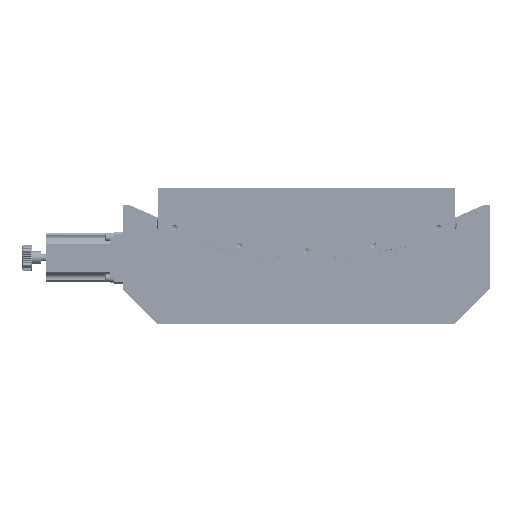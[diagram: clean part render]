
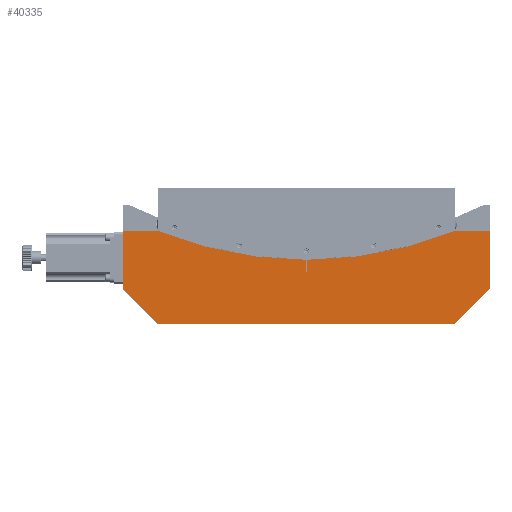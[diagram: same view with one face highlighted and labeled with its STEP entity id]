
A CAD part, top view. The second image highlights one B-rep face of the part: STEP entity #40335.
In plain terms, the highlighted planar face has unit normal (0, 0, 1).
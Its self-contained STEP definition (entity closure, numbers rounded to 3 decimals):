
#261 = ORIENTED_EDGE ( 'NONE', *, *, #41814, .T. ) ;
#854 = EDGE_CURVE ( 'NONE', #41335, #16954, #17699, .T. ) ;
#3986 = EDGE_CURVE ( 'NONE', #50698, #30532, #8318, .T. ) ;
#4849 = ORIENTED_EDGE ( 'NONE', *, *, #854, .T. ) ;
#4888 = VECTOR ( 'NONE', #61313, 1000. ) ;
#6475 = DIRECTION ( 'NONE',  ( 1., 0., 0. ) ) ;
#7382 = DIRECTION ( 'NONE',  ( 0., 0., -1. ) ) ;
#7596 = ORIENTED_EDGE ( 'NONE', *, *, #51923, .T. ) ;
#8318 = CIRCLE ( 'NONE', #45536, 452. ) ;
#8530 = VECTOR ( 'NONE', #52926, 1000. ) ;
#8994 = DIRECTION ( 'NONE',  ( 0., 1., 0. ) ) ;
#9153 = CARTESIAN_POINT ( 'NONE',  ( 0., 106.2, 250. ) ) ;
#9436 = AXIS2_PLACEMENT_3D ( 'NONE', #63718, #11126, #22816 ) ;
#11126 = DIRECTION ( 'NONE',  ( 0., 0., -1. ) ) ;
#12085 = VECTOR ( 'NONE', #45861, 1000. ) ;
#12267 = CARTESIAN_POINT ( 'NONE',  ( 420., 40., 250. ) ) ;
#12289 = LINE ( 'NONE', #31672, #26926 ) ;
#12814 = DIRECTION ( 'NONE',  ( -1., 0., 0. ) ) ;
#12989 = VERTEX_POINT ( 'NONE', #32265 ) ;
#13018 = DIRECTION ( 'NONE',  ( 1., 0., 0. ) ) ;
#13958 = CARTESIAN_POINT ( 'NONE',  ( 0., 0., 250. ) ) ;
#15334 = ORIENTED_EDGE ( 'NONE', *, *, #76905, .T. ) ;
#15468 = LINE ( 'NONE', #16753, #23981 ) ;
#16223 = LINE ( 'NONE', #23560, #57766 ) ;
#16753 = CARTESIAN_POINT ( 'NONE',  ( 210.5, 87.215, 250. ) ) ;
#16954 = VERTEX_POINT ( 'NONE', #42634 ) ;
#17699 = CIRCLE ( 'NONE', #9436, 452. ) ;
#17786 = LINE ( 'NONE', #39284, #38085 ) ;
#19099 = VECTOR ( 'NONE', #12814, 1000. ) ;
#22816 = DIRECTION ( 'NONE',  ( 1., 0., 0. ) ) ;
#23560 = CARTESIAN_POINT ( 'NONE',  ( 420., 0., 250. ) ) ;
#23981 = VECTOR ( 'NONE', #8994, 1000. ) ;
#24067 = ORIENTED_EDGE ( 'NONE', *, *, #3986, .T. ) ;
#25980 = DIRECTION ( 'NONE',  ( 1., 0., 0. ) ) ;
#26926 = VECTOR ( 'NONE', #84363, 1000. ) ;
#27582 = CARTESIAN_POINT ( 'NONE',  ( 380., 106.2, 250. ) ) ;
#29441 = ORIENTED_EDGE ( 'NONE', *, *, #36281, .F. ) ;
#30532 = VERTEX_POINT ( 'NONE', #71194 ) ;
#30695 = VERTEX_POINT ( 'NONE', #61171 ) ;
#31672 = CARTESIAN_POINT ( 'NONE',  ( 209.5, 525.013, 250. ) ) ;
#31712 = VERTEX_POINT ( 'NONE', #47795 ) ;
#31940 = ORIENTED_EDGE ( 'NONE', *, *, #33057, .F. ) ;
#32265 = CARTESIAN_POINT ( 'NONE',  ( 0., 106.2, 250. ) ) ;
#33057 = EDGE_CURVE ( 'NONE', #41335, #30695, #12289, .T. ) ;
#36281 = EDGE_CURVE ( 'NONE', #30695, #64128, #17786, .T. ) ;
#37072 = VERTEX_POINT ( 'NONE', #73793 ) ;
#37683 = EDGE_CURVE ( 'NONE', #12989, #67805, #78678, .T. ) ;
#37686 = VERTEX_POINT ( 'NONE', #12267 ) ;
#37702 = CARTESIAN_POINT ( 'NONE',  ( 210.5, 58.81, 250. ) ) ;
#38085 = VECTOR ( 'NONE', #13018, 1000. ) ;
#38237 = CARTESIAN_POINT ( 'NONE',  ( 420., 106.2, 250. ) ) ;
#38627 = EDGE_CURVE ( 'NONE', #67013, #50698, #57617, .T. ) ;
#38875 = CARTESIAN_POINT ( 'NONE',  ( 0., 40., 250. ) ) ;
#39284 = CARTESIAN_POINT ( 'NONE',  ( 209.5, 58.81, 250. ) ) ;
#40335 = ADVANCED_FACE ( 'NONE', ( #45690 ), #71626, .T. ) ;
#41335 = VERTEX_POINT ( 'NONE', #57118 ) ;
#41814 = EDGE_CURVE ( 'NONE', #37686, #67013, #16223, .T. ) ;
#42016 = LINE ( 'NONE', #68368, #64248 ) ;
#42634 = CARTESIAN_POINT ( 'NONE',  ( 40., 106.2, 250. ) ) ;
#43318 = CARTESIAN_POINT ( 'NONE',  ( 557.506, 177.506, 250. ) ) ;
#45536 = AXIS2_PLACEMENT_3D ( 'NONE', #85101, #7382, #25980 ) ;
#45690 = FACE_OUTER_BOUND ( 'NONE', #73282, .T. ) ;
#45861 = DIRECTION ( 'NONE',  ( 0., -1., 0. ) ) ;
#46209 = ORIENTED_EDGE ( 'NONE', *, *, #38627, .T. ) ;
#46471 = CARTESIAN_POINT ( 'NONE',  ( 0., 0., 250. ) ) ;
#47795 = CARTESIAN_POINT ( 'NONE',  ( 380., 0., 250. ) ) ;
#50698 = VERTEX_POINT ( 'NONE', #27582 ) ;
#50699 = CARTESIAN_POINT ( 'NONE',  ( 420., 106.2, 250. ) ) ;
#51923 = EDGE_CURVE ( 'NONE', #16954, #12989, #68247, .T. ) ;
#52258 = AXIS2_PLACEMENT_3D ( 'NONE', #70768, #65542, #6475 ) ;
#52926 = DIRECTION ( 'NONE',  ( 1., 0., 0. ) ) ;
#56633 = DIRECTION ( 'NONE',  ( 0.707, -0.707, 0. ) ) ;
#56998 = ORIENTED_EDGE ( 'NONE', *, *, #59770, .T. ) ;
#57118 = CARTESIAN_POINT ( 'NONE',  ( 209.5, 73.013, 250. ) ) ;
#57617 = LINE ( 'NONE', #38237, #19099 ) ;
#57766 = VECTOR ( 'NONE', #75739, 1000. ) ;
#59770 = EDGE_CURVE ( 'NONE', #67805, #37072, #42016, .T. ) ;
#60519 = VECTOR ( 'NONE', #75691, 1000. ) ;
#61171 = CARTESIAN_POINT ( 'NONE',  ( 209.5, 58.81, 250. ) ) ;
#61313 = DIRECTION ( 'NONE',  ( -1., 0., 0. ) ) ;
#63718 = CARTESIAN_POINT ( 'NONE',  ( 210., 525.013, 250. ) ) ;
#64128 = VERTEX_POINT ( 'NONE', #37702 ) ;
#64248 = VECTOR ( 'NONE', #56633, 1000. ) ;
#65485 = LINE ( 'NONE', #46471, #8530 ) ;
#65542 = DIRECTION ( 'NONE',  ( 0., 0., 1. ) ) ;
#67013 = VERTEX_POINT ( 'NONE', #50699 ) ;
#67805 = VERTEX_POINT ( 'NONE', #38875 ) ;
#68247 = LINE ( 'NONE', #9153, #4888 ) ;
#68368 = CARTESIAN_POINT ( 'NONE',  ( -137.506, 177.506, 250. ) ) ;
#70768 = CARTESIAN_POINT ( 'NONE',  ( 210., 525.013, 250. ) ) ;
#70877 = EDGE_CURVE ( 'NONE', #37072, #31712, #65485, .T. ) ;
#71194 = CARTESIAN_POINT ( 'NONE',  ( 210.5, 73.013, 250. ) ) ;
#71626 = PLANE ( 'NONE',  #52258 ) ;
#73282 = EDGE_LOOP ( 'NONE', ( #81569, #29441, #31940, #4849, #7596, #76376, #56998, #73516, #15334, #261, #46209, #24067 ) ) ;
#73516 = ORIENTED_EDGE ( 'NONE', *, *, #70877, .T. ) ;
#73793 = CARTESIAN_POINT ( 'NONE',  ( 40., 0., 250. ) ) ;
#75691 = DIRECTION ( 'NONE',  ( 0.707, 0.707, 0. ) ) ;
#75739 = DIRECTION ( 'NONE',  ( 0., 1., 0. ) ) ;
#76376 = ORIENTED_EDGE ( 'NONE', *, *, #37683, .T. ) ;
#76905 = EDGE_CURVE ( 'NONE', #31712, #37686, #82608, .T. ) ;
#78678 = LINE ( 'NONE', #13958, #12085 ) ;
#81569 = ORIENTED_EDGE ( 'NONE', *, *, #84586, .F. ) ;
#82608 = LINE ( 'NONE', #43318, #60519 ) ;
#84363 = DIRECTION ( 'NONE',  ( 0., -1., 0. ) ) ;
#84586 = EDGE_CURVE ( 'NONE', #64128, #30532, #15468, .T. ) ;
#85101 = CARTESIAN_POINT ( 'NONE',  ( 210., 525.013, 250. ) ) ;
